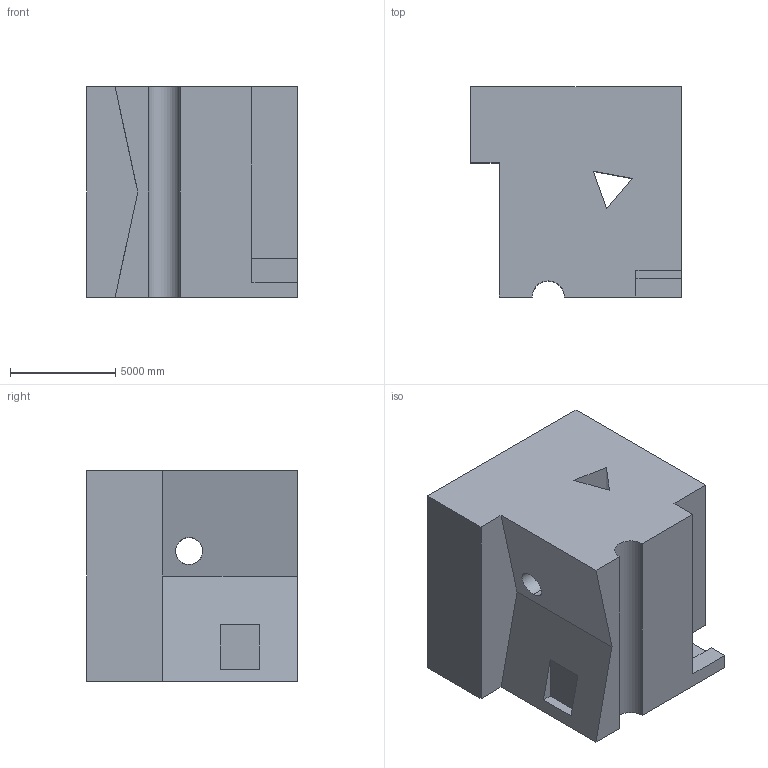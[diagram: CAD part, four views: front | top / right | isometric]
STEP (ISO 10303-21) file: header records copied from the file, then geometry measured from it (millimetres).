
FILE_DESCRIPTION (( 'STEP AP203' ), '1' );
FILE_NAME ('78.STEP', '2022-08-30T14:25:08', ( 'user' ), ( '' ), 'SwSTEP 2.0', 'SolidWorks 2021', '' );
FILE_SCHEMA (( 'CONFIG_CONTROL_DESIGN' ));
Length unit declared in the file: centimetre
Products named in the file (1): 78
Bounding box: 10000 x 10000 x 10000 mm (x, y, z)
Volume: 813058585830 mm3; surface area: 682812401.8 mm2
Topology: 1 solids, 1 shells, 36 faces, 96 edges, 64 vertices
Faces by surface type: plane 27, cylinder 9
Entity records: 1201 total; most frequent: CARTESIAN_POINT 221, ORIENTED_EDGE 192, DIRECTION 174, EDGE_CURVE 96, VECTOR 76, LINE 76, VERTEX_POINT 64, AXIS2_PLACEMENT_3D 49
